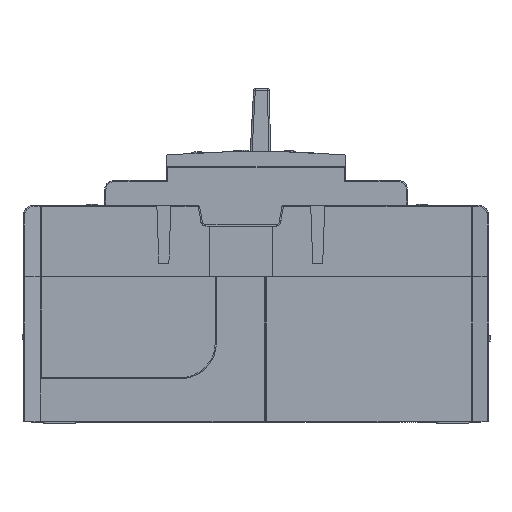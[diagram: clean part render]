
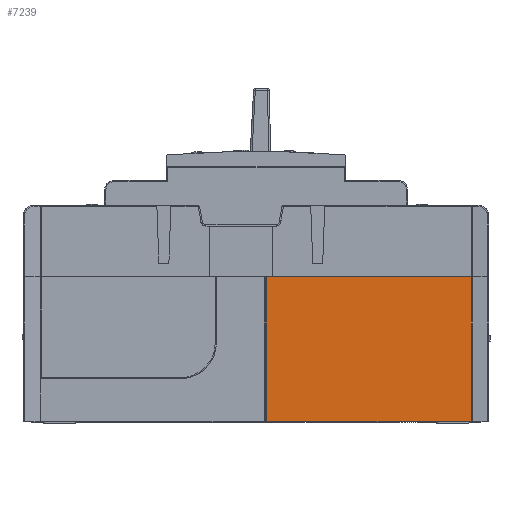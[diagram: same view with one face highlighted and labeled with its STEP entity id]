
A CAD part, front view. The second image highlights one B-rep face of the part: STEP entity #7239.
In plain terms, the highlighted planar face has unit normal (0, -1, 0).
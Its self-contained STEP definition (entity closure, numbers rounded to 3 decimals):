
#3810=FACE_OUTER_BOUND('',#16657,.T.);
#7239=ADVANCED_FACE('',(#3810),#10158,.T.);
#10158=PLANE('',#71614);
#16657=EDGE_LOOP('',(#30321,#30322,#30323,#30324,#30325));
#30321=ORIENTED_EDGE('',*,*,#50351,.T.);
#30322=ORIENTED_EDGE('',*,*,#49846,.F.);
#30323=ORIENTED_EDGE('',*,*,#49845,.F.);
#30324=ORIENTED_EDGE('',*,*,#50352,.T.);
#30325=ORIENTED_EDGE('',*,*,#50353,.T.);
#41477=VERTEX_POINT('',#106359);
#41478=VERTEX_POINT('',#106361);
#41479=VERTEX_POINT('',#106363);
#41922=VERTEX_POINT('',#107356);
#41923=VERTEX_POINT('',#107358);
#49845=EDGE_CURVE('',#41477,#41478,#57903,.T.);
#49846=EDGE_CURVE('',#41478,#41479,#57904,.T.);
#50351=EDGE_CURVE('',#41922,#41479,#58302,.T.);
#50352=EDGE_CURVE('',#41477,#41923,#58303,.T.);
#50353=EDGE_CURVE('',#41923,#41922,#58304,.T.);
#57903=LINE('',#106360,#65198);
#57904=LINE('',#106362,#65199);
#58302=LINE('',#107355,#65597);
#58303=LINE('',#107357,#65598);
#58304=LINE('',#107359,#65599);
#65198=VECTOR('',#84424,1.);
#65199=VECTOR('',#84425,1.);
#65597=VECTOR('',#85127,1.);
#65598=VECTOR('',#85128,1.);
#65599=VECTOR('',#85129,1.);
#71614=AXIS2_PLACEMENT_3D('',#107360,#85130,#85131);
#84424=DIRECTION('',(-1.,0.,0.));
#84425=DIRECTION('',(-1.,0.,0.));
#85127=DIRECTION('',(0.,0.,-1.));
#85128=DIRECTION('',(0.,0.,1.));
#85129=DIRECTION('',(-1.,0.,0.));
#85130=DIRECTION('',(0.,-1.,0.));
#85131=DIRECTION('',(0.,0.,-1.));
#106359=CARTESIAN_POINT('',(13.6,246.25,-23.9));
#106360=CARTESIAN_POINT('',(18.4,246.25,-23.9));
#106361=CARTESIAN_POINT('',(-6.6,246.25,-23.9));
#106362=CARTESIAN_POINT('',(18.4,246.25,-23.9));
#106363=CARTESIAN_POINT('',(-43.7,246.25,-23.9));
#107355=CARTESIAN_POINT('',(-43.7,246.25,16.6));
#107356=CARTESIAN_POINT('',(-43.7,246.25,16.6));
#107357=CARTESIAN_POINT('',(13.6,246.25,16.6));
#107358=CARTESIAN_POINT('',(13.6,246.25,16.6));
#107359=CARTESIAN_POINT('',(-107.65,246.25,16.6));
#107360=CARTESIAN_POINT('',(-107.65,246.25,16.6));
